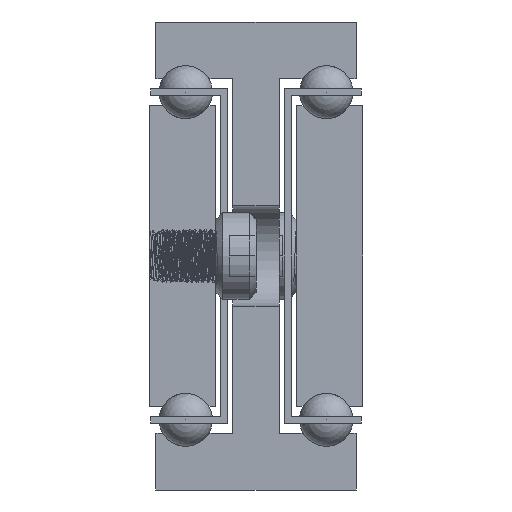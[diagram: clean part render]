
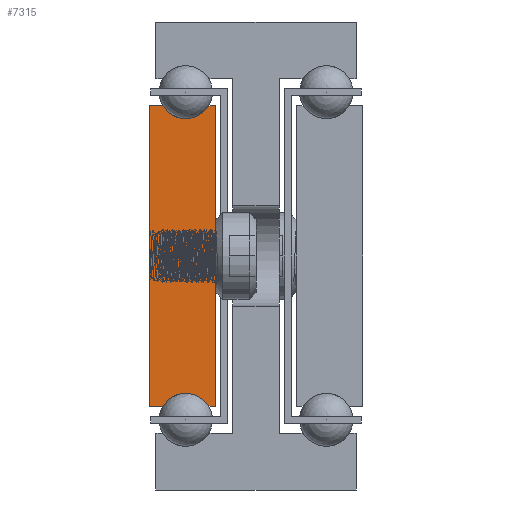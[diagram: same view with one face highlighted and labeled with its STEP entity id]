
A CAD part, front view. The second image highlights one B-rep face of the part: STEP entity #7315.
In plain terms, the highlighted planar face has unit normal (0, -1, 0).
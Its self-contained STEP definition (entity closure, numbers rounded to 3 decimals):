
#1205=CIRCLE('',#7883,4.);
#1207=CIRCLE('',#7889,4.);
#1849=FACE_OUTER_BOUND('',#2325,.T.);
#2325=EDGE_LOOP('',(#5798,#5799,#5800,#5801,#5802,#5803,#5804,#5805));
#3144=LINE('',#98987,#3356);
#3147=LINE('',#98993,#3359);
#3151=LINE('',#99005,#3363);
#3154=LINE('',#99011,#3366);
#3157=LINE('',#99017,#3369);
#3161=LINE('',#99027,#3373);
#3356=VECTOR('',#8842,1.);
#3359=VECTOR('',#8847,1.);
#3363=VECTOR('',#8859,1.);
#3366=VECTOR('',#8864,1.);
#3369=VECTOR('',#8869,1.);
#3373=VECTOR('',#8881,1.);
#3656=VERTEX_POINT('',#98984);
#3657=VERTEX_POINT('',#98986);
#3659=VERTEX_POINT('',#98992);
#3661=VERTEX_POINT('',#98998);
#3663=VERTEX_POINT('',#99004);
#3665=VERTEX_POINT('',#99010);
#3667=VERTEX_POINT('',#99016);
#3669=VERTEX_POINT('',#99022);
#4590=EDGE_CURVE('',#3657,#3656,#3144,.T.);
#4593=EDGE_CURVE('',#3659,#3657,#3147,.T.);
#4596=EDGE_CURVE('',#3661,#3659,#1205,.T.);
#4599=EDGE_CURVE('',#3663,#3661,#3151,.T.);
#4602=EDGE_CURVE('',#3665,#3663,#3154,.T.);
#4605=EDGE_CURVE('',#3667,#3665,#3157,.T.);
#4608=EDGE_CURVE('',#3669,#3667,#1207,.T.);
#4611=EDGE_CURVE('',#3656,#3669,#3161,.T.);
#5798=ORIENTED_EDGE('',*,*,#4611,.T.);
#5799=ORIENTED_EDGE('',*,*,#4608,.T.);
#5800=ORIENTED_EDGE('',*,*,#4605,.T.);
#5801=ORIENTED_EDGE('',*,*,#4602,.T.);
#5802=ORIENTED_EDGE('',*,*,#4599,.T.);
#5803=ORIENTED_EDGE('',*,*,#4596,.T.);
#5804=ORIENTED_EDGE('',*,*,#4593,.T.);
#5805=ORIENTED_EDGE('',*,*,#4590,.T.);
#7169=PLANE('',#7892);
#7315=ADVANCED_FACE('',(#1849),#7169,.T.);
#7883=AXIS2_PLACEMENT_3D('',#98999,#8853,#8854);
#7889=AXIS2_PLACEMENT_3D('',#99023,#8875,#8876);
#7892=AXIS2_PLACEMENT_3D('',#99029,#8884,#8885);
#8842=DIRECTION('',(0.,0.,-1.));
#8847=DIRECTION('',(-1.,0.,0.));
#8853=DIRECTION('center_axis',(0.,1.,0.));
#8854=DIRECTION('ref_axis',(-0.866,0.,-0.5));
#8859=DIRECTION('',(-1.,0.,0.));
#8864=DIRECTION('',(0.,0.,1.));
#8869=DIRECTION('',(1.,0.,0.));
#8875=DIRECTION('center_axis',(0.,1.,0.));
#8876=DIRECTION('ref_axis',(0.866,0.,0.5));
#8881=DIRECTION('',(1.,0.,0.));
#8884=DIRECTION('center_axis',(0.,-1.,0.));
#8885=DIRECTION('ref_axis',(1.,0.,0.));
#98984=CARTESIAN_POINT('',(-1602.748,-1780.055,-57.5));
#98986=CARTESIAN_POINT('',(-1602.748,-1780.055,-12.5));
#98987=CARTESIAN_POINT('',(-1602.748,-1780.055,-57.5));
#98992=CARTESIAN_POINT('',(-1600.713,-1780.055,-12.5));
#98993=CARTESIAN_POINT('',(-1602.748,-1780.055,-12.5));
#98998=CARTESIAN_POINT('',(-1593.784,-1780.055,-12.5));
#98999=CARTESIAN_POINT('Origin',(-1597.248,-1780.055,-10.5));
#99004=CARTESIAN_POINT('',(-1592.748,-1780.055,-12.5));
#99005=CARTESIAN_POINT('',(-1593.784,-1780.055,-12.5));
#99010=CARTESIAN_POINT('',(-1592.748,-1780.055,-57.5));
#99011=CARTESIAN_POINT('',(-1592.748,-1780.055,-12.5));
#99016=CARTESIAN_POINT('',(-1593.784,-1780.055,-57.5));
#99017=CARTESIAN_POINT('',(-1592.748,-1780.055,-57.5));
#99022=CARTESIAN_POINT('',(-1600.713,-1780.055,-57.5));
#99023=CARTESIAN_POINT('Origin',(-1597.248,-1780.055,-59.5));
#99027=CARTESIAN_POINT('',(-1600.713,-1780.055,-57.5));
#99029=CARTESIAN_POINT('Origin',(-1597.754,-1780.055,-35.));
